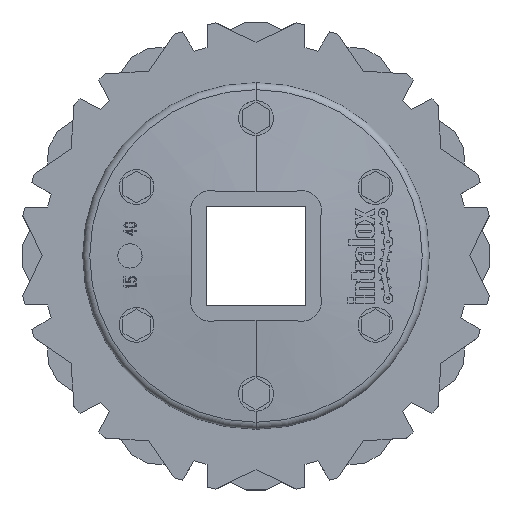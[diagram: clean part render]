
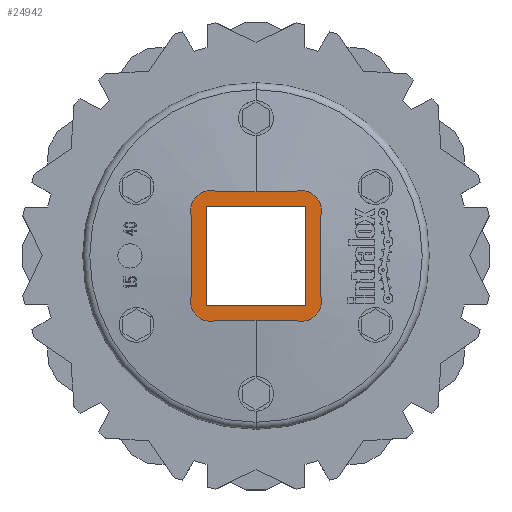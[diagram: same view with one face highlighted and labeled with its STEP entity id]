
A CAD part, top view. The second image highlights one B-rep face of the part: STEP entity #24942.
In plain terms, the highlighted planar face has unit normal (0, 0, 1) as drawn and (0, 1, 0) by its records, which use the part's own axes.
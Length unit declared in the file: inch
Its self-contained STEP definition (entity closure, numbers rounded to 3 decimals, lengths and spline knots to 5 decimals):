
#17965=DIRECTION('',(0.,0.,1.));
#17966=VECTOR('',#17965,1.21061);
#17967=CARTESIAN_POINT('',(-1.0175,0.67,-0.60531));
#17968=LINE('',#17967,#17966);
#17969=CARTESIAN_POINT('',(-0.718,0.67,-0.718));
#17970=DIRECTION('',(0.,1.,0.));
#17971=DIRECTION('',(0.352,0.,-0.936));
#17972=AXIS2_PLACEMENT_3D('',#17969,#17970,#17971);
#17974=DIRECTION('',(-1.,0.,0.));
#17975=VECTOR('',#17974,1.21061);
#17976=CARTESIAN_POINT('',(0.60531,0.67,-1.0175));
#17977=LINE('',#17976,#17975);
#17978=CARTESIAN_POINT('',(0.718,0.67,-0.718));
#17979=DIRECTION('',(0.,1.,0.));
#17980=DIRECTION('',(0.936,0.,0.352));
#17981=AXIS2_PLACEMENT_3D('',#17978,#17979,#17980);
#17983=DIRECTION('',(0.,0.,-1.));
#17984=VECTOR('',#17983,1.21061);
#17985=CARTESIAN_POINT('',(1.0175,0.67,0.60531));
#17986=LINE('',#17985,#17984);
#17987=CARTESIAN_POINT('',(0.718,0.67,0.718));
#17988=DIRECTION('',(0.,1.,0.));
#17989=DIRECTION('',(-0.352,0.,0.936));
#17990=AXIS2_PLACEMENT_3D('',#17987,#17988,#17989);
#17992=DIRECTION('',(1.,0.,0.));
#17993=VECTOR('',#17992,1.21061);
#17994=CARTESIAN_POINT('',(-0.60531,0.67,1.0175));
#17995=LINE('',#17994,#17993);
#17996=CARTESIAN_POINT('',(-0.718,0.67,0.718));
#17997=DIRECTION('',(0.,1.,0.));
#17998=DIRECTION('',(-0.936,0.,-0.352));
#17999=AXIS2_PLACEMENT_3D('',#17996,#17997,#17998);
#18001=DIRECTION('',(-1.,0.,0.));
#18002=VECTOR('',#18001,1.575);
#18003=CARTESIAN_POINT('',(0.7875,0.67,-0.7875));
#18004=LINE('',#18003,#18002);
#18005=DIRECTION('',(0.,0.,1.));
#18006=VECTOR('',#18005,1.575);
#18007=CARTESIAN_POINT('',(-0.7875,0.67,-0.7875));
#18008=LINE('',#18007,#18006);
#18009=DIRECTION('',(1.,0.,0.));
#18010=VECTOR('',#18009,1.575);
#18011=CARTESIAN_POINT('',(-0.7875,0.67,0.7875));
#18012=LINE('',#18011,#18010);
#18013=DIRECTION('',(0.,0.,-1.));
#18014=VECTOR('',#18013,1.575);
#18015=CARTESIAN_POINT('',(0.7875,0.67,0.7875));
#18016=LINE('',#18015,#18014);
#18287=CARTESIAN_POINT('',(-1.0175,0.67,-0.60531));
#18288=CARTESIAN_POINT('',(-1.0175,0.67,0.60531));
#18289=VERTEX_POINT('',#18287);
#18290=VERTEX_POINT('',#18288);
#18291=CARTESIAN_POINT('',(-0.60531,0.67,1.0175));
#18292=VERTEX_POINT('',#18291);
#18293=CARTESIAN_POINT('',(0.60531,0.67,1.0175));
#18294=VERTEX_POINT('',#18293);
#18295=CARTESIAN_POINT('',(1.0175,0.67,0.60531));
#18296=VERTEX_POINT('',#18295);
#18297=CARTESIAN_POINT('',(1.0175,0.67,-0.60531));
#18298=VERTEX_POINT('',#18297);
#18299=CARTESIAN_POINT('',(0.60531,0.67,-1.0175));
#18300=VERTEX_POINT('',#18299);
#18301=CARTESIAN_POINT('',(-0.60531,0.67,-1.0175));
#18302=VERTEX_POINT('',#18301);
#19047=CARTESIAN_POINT('',(0.7875,0.67,-0.7875));
#19048=VERTEX_POINT('',#19047);
#19049=CARTESIAN_POINT('',(-0.7875,0.67,-0.7875));
#19050=VERTEX_POINT('',#19049);
#19051=CARTESIAN_POINT('',(-0.7875,0.67,0.7875));
#19052=VERTEX_POINT('',#19051);
#19053=CARTESIAN_POINT('',(0.7875,0.67,0.7875));
#19054=VERTEX_POINT('',#19053);
#24917=CARTESIAN_POINT('',(0.,0.67,0.));
#24918=DIRECTION('',(0.,1.,0.));
#24919=DIRECTION('',(-1.,0.,0.));
#24920=AXIS2_PLACEMENT_3D('',#24917,#24918,#24919);
#24921=PLANE('',#24920);
#24922=ORIENTED_EDGE('',*,*,#24811,.F.);
#24923=ORIENTED_EDGE('',*,*,#24827,.F.);
#24924=ORIENTED_EDGE('',*,*,#24841,.F.);
#24925=ORIENTED_EDGE('',*,*,#24855,.F.);
#24926=ORIENTED_EDGE('',*,*,#24870,.F.);
#24927=ORIENTED_EDGE('',*,*,#24884,.F.);
#24928=ORIENTED_EDGE('',*,*,#24898,.F.);
#24929=ORIENTED_EDGE('',*,*,#24911,.F.);
#24930=EDGE_LOOP('',(#24922,#24923,#24924,#24925,#24926,#24927,#24928,#24929));
#24931=FACE_OUTER_BOUND('',#24930,.F.);
#24933=ORIENTED_EDGE('',*,*,#24932,.T.);
#24935=ORIENTED_EDGE('',*,*,#24934,.T.);
#24937=ORIENTED_EDGE('',*,*,#24936,.T.);
#24939=ORIENTED_EDGE('',*,*,#24938,.T.);
#24940=EDGE_LOOP('',(#24933,#24935,#24937,#24939));
#24941=FACE_BOUND('',#24940,.F.);
#24942=ADVANCED_FACE('',(#24931,#24941),#24921,.T.);
#17973=CIRCLE('',#17972,0.32);
#17982=CIRCLE('',#17981,0.32);
#17991=CIRCLE('',#17990,0.32);
#18000=CIRCLE('',#17999,0.32);
#24811=EDGE_CURVE('',#18289,#18290,#17968,.T.);
#24827=EDGE_CURVE('',#18302,#18289,#17973,.T.);
#24841=EDGE_CURVE('',#18300,#18302,#17977,.T.);
#24855=EDGE_CURVE('',#18298,#18300,#17982,.T.);
#24870=EDGE_CURVE('',#18296,#18298,#17986,.T.);
#24884=EDGE_CURVE('',#18294,#18296,#17991,.T.);
#24898=EDGE_CURVE('',#18292,#18294,#17995,.T.);
#24911=EDGE_CURVE('',#18290,#18292,#18000,.T.);
#24932=EDGE_CURVE('',#19048,#19050,#18004,.T.);
#24934=EDGE_CURVE('',#19050,#19052,#18008,.T.);
#24936=EDGE_CURVE('',#19052,#19054,#18012,.T.);
#24938=EDGE_CURVE('',#19054,#19048,#18016,.T.);
